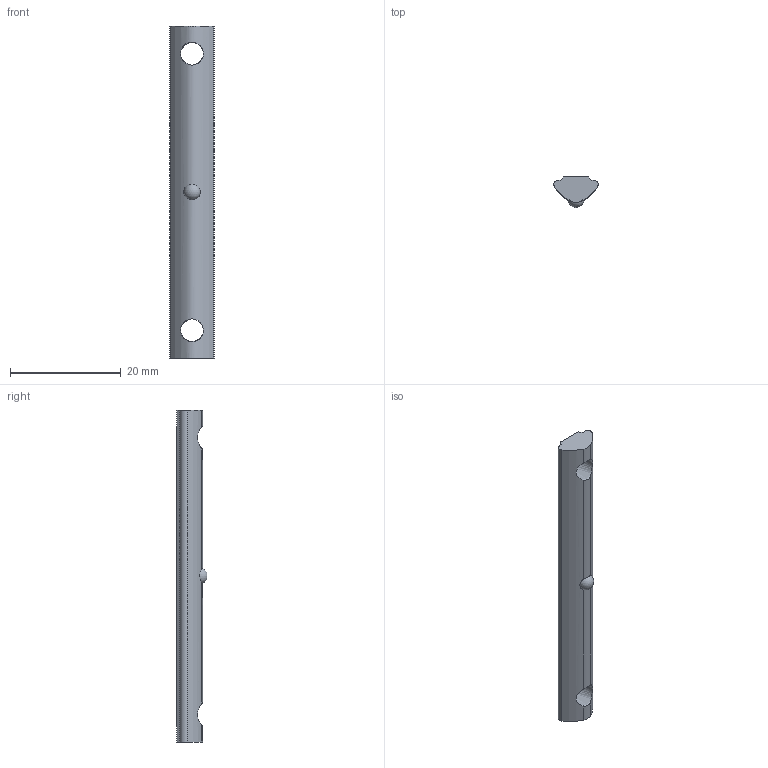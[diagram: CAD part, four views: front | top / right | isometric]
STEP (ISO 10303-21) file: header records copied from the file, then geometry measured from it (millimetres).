
FILE_DESCRIPTION((''),'2;1');
FILE_NAME('K:\Technik\CAD-Daten\EOAT\GR01_\GR01.086\GR01.086.stp','2007-09-07T10:09:22',('RKob'),(''),'Autodesk Inventor 11','Autodesk Inventor 11','');
FILE_SCHEMA(('AUTOMOTIVE_DESIGN { 1 0 10303 214 1 1 1 1 }'));
Length unit declared in the file: millimetre
Products named in the file (1): GR01
Bounding box: 8 x 5.6 x 60 mm (x, y, z)
Volume: 1489.4 mm3; surface area: 1326.3 mm2
Topology: 1 solids, 1 shells, 22 faces, 66 edges, 44 vertices
Faces by surface type: cylinder 12, plane 7, bspline 2, sphere 1
Entity records: 965 total; most frequent: CARTESIAN_POINT 371, ORIENTED_EDGE 124, DIRECTION 112, EDGE_CURVE 62, VERTEX_POINT 42, AXIS2_PLACEMENT_3D 41, VECTOR 30, LINE 30
